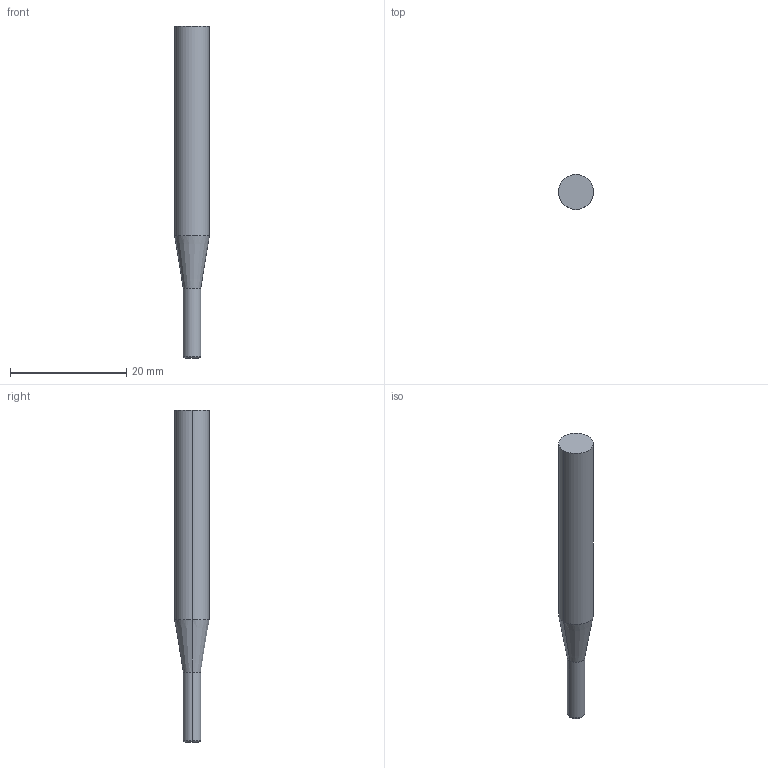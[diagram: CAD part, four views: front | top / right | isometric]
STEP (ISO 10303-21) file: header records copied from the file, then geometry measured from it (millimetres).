
FILE_DESCRIPTION(('STEP AP214'),'1');
FILE_NAME('cctmp_080DFBF3-0783-439D-BCB7-1CAA3830B599_2021_06_01_12_46_06_0672..stp','2021-06-01T10:46:06',('Meusburger Georg GmbH & Co KG'),('CADClick - www.CADClick.com'),'Spatial InterOp 3D',' ','unknown authorization');
FILE_SCHEMA(('AUTOMOTIVE_DESIGN { 1 0 10303 214 1 1 1 1 }'));
Length unit declared in the file: millimetre
Products named in the file (1): WZF 135461_3_0.3
Bounding box: 6 x 6 x 57 mm (x, y, z)
Volume: 1251 mm3; surface area: 954.8 mm2
Topology: 1 solids, 1 shells, 10 faces, 18 edges, 10 vertices
Faces by surface type: cylinder 4, cone 2, torus 2, plane 2
Entity records: 350 total; most frequent: DIRECTION 52, CARTESIAN_POINT 39, ORIENTED_EDGE 36, AXIS2_PLACEMENT_3D 23, EDGE_CURVE 18, CIRCLE 12, STYLED_ITEM 11, PRESENTATION_STYLE_ASSIGNMENT 11
